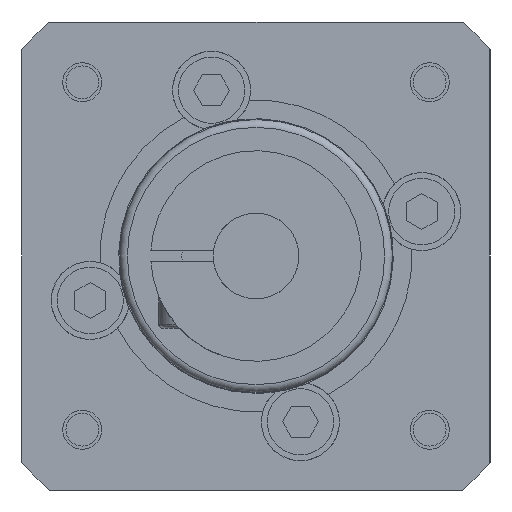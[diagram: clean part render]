
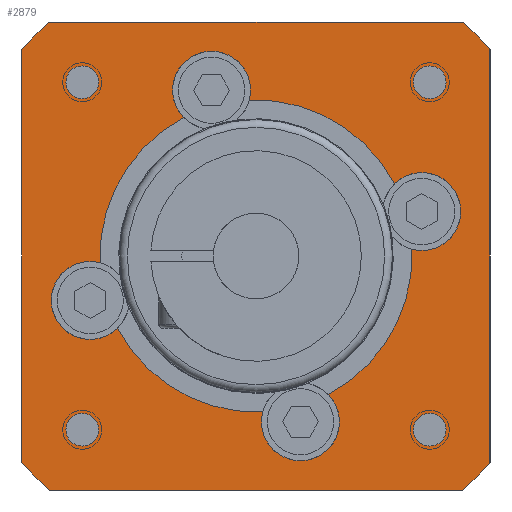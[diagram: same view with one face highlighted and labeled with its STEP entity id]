
A CAD part, left-side view. The second image highlights one B-rep face of the part: STEP entity #2879.
In plain terms, the highlighted planar face has unit normal (-1, 0, 0).
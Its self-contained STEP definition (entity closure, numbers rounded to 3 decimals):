
#121=LINE('',#4312,#362);
#122=LINE('',#4316,#363);
#123=LINE('',#4320,#364);
#124=LINE('',#4323,#365);
#362=VECTOR('',#3426,52.915);
#363=VECTOR('',#3429,52.915);
#364=VECTOR('',#3432,52.915);
#365=VECTOR('',#3435,52.915);
#606=PLANE('',#3085);
#737=FACE_BOUND('',#1012,.T.);
#738=FACE_BOUND('',#1013,.T.);
#739=FACE_BOUND('',#1014,.T.);
#740=FACE_BOUND('',#1015,.T.);
#741=FACE_BOUND('',#1016,.T.);
#816=FACE_OUTER_BOUND('',#1011,.T.);
#1011=EDGE_LOOP('',(#2073,#2074,#2075,#2076,#2077,#2078,#2079,#2080));
#1012=EDGE_LOOP('',(#2081));
#1013=EDGE_LOOP('',(#2082));
#1014=EDGE_LOOP('',(#2083));
#1015=EDGE_LOOP('',(#2084));
#1016=EDGE_LOOP('',(#2085,#2086,#2087,#2088,#2089,#2090,#2091,#2092));
#1274=CIRCLE('',#3083,2.1);
#1276=CIRCLE('',#3086,40.);
#1277=CIRCLE('',#3087,40.);
#1278=CIRCLE('',#3088,40.);
#1279=CIRCLE('',#3089,40.);
#1280=CIRCLE('',#3090,2.1);
#1281=CIRCLE('',#3091,2.1);
#1282=CIRCLE('',#3092,2.1);
#1283=CIRCLE('',#3093,5.);
#1284=CIRCLE('',#3094,20.);
#1285=CIRCLE('',#3095,5.);
#1286=CIRCLE('',#3096,20.);
#1287=CIRCLE('',#3097,5.);
#1288=CIRCLE('',#3098,20.);
#1289=CIRCLE('',#3099,5.);
#1290=CIRCLE('',#3100,20.);
#1408=VERTEX_POINT('',#4303);
#1410=VERTEX_POINT('',#4308);
#1411=VERTEX_POINT('',#4309);
#1412=VERTEX_POINT('',#4311);
#1413=VERTEX_POINT('',#4313);
#1414=VERTEX_POINT('',#4315);
#1415=VERTEX_POINT('',#4317);
#1416=VERTEX_POINT('',#4319);
#1417=VERTEX_POINT('',#4321);
#1418=VERTEX_POINT('',#4324);
#1419=VERTEX_POINT('',#4326);
#1420=VERTEX_POINT('',#4328);
#1421=VERTEX_POINT('',#4330);
#1422=VERTEX_POINT('',#4331);
#1423=VERTEX_POINT('',#4333);
#1424=VERTEX_POINT('',#4335);
#1425=VERTEX_POINT('',#4337);
#1426=VERTEX_POINT('',#4339);
#1427=VERTEX_POINT('',#4341);
#1428=VERTEX_POINT('',#4343);
#1683=EDGE_CURVE('',#1408,#1408,#1274,.T.);
#1685=EDGE_CURVE('',#1410,#1411,#1276,.T.);
#1686=EDGE_CURVE('',#1411,#1412,#121,.T.);
#1687=EDGE_CURVE('',#1412,#1413,#1277,.T.);
#1688=EDGE_CURVE('',#1413,#1414,#122,.T.);
#1689=EDGE_CURVE('',#1414,#1415,#1278,.T.);
#1690=EDGE_CURVE('',#1415,#1416,#123,.T.);
#1691=EDGE_CURVE('',#1416,#1417,#1279,.T.);
#1692=EDGE_CURVE('',#1417,#1410,#124,.T.);
#1693=EDGE_CURVE('',#1418,#1418,#1280,.T.);
#1694=EDGE_CURVE('',#1419,#1419,#1281,.T.);
#1695=EDGE_CURVE('',#1420,#1420,#1282,.T.);
#1696=EDGE_CURVE('',#1421,#1422,#1283,.T.);
#1697=EDGE_CURVE('',#1422,#1423,#1284,.T.);
#1698=EDGE_CURVE('',#1423,#1424,#1285,.T.);
#1699=EDGE_CURVE('',#1424,#1425,#1286,.T.);
#1700=EDGE_CURVE('',#1425,#1426,#1287,.T.);
#1701=EDGE_CURVE('',#1426,#1427,#1288,.T.);
#1702=EDGE_CURVE('',#1427,#1428,#1289,.T.);
#1703=EDGE_CURVE('',#1428,#1421,#1290,.T.);
#2073=ORIENTED_EDGE('',*,*,#1685,.T.);
#2074=ORIENTED_EDGE('',*,*,#1686,.T.);
#2075=ORIENTED_EDGE('',*,*,#1687,.T.);
#2076=ORIENTED_EDGE('',*,*,#1688,.T.);
#2077=ORIENTED_EDGE('',*,*,#1689,.T.);
#2078=ORIENTED_EDGE('',*,*,#1690,.T.);
#2079=ORIENTED_EDGE('',*,*,#1691,.T.);
#2080=ORIENTED_EDGE('',*,*,#1692,.T.);
#2081=ORIENTED_EDGE('',*,*,#1683,.F.);
#2082=ORIENTED_EDGE('',*,*,#1693,.F.);
#2083=ORIENTED_EDGE('',*,*,#1694,.F.);
#2084=ORIENTED_EDGE('',*,*,#1695,.F.);
#2085=ORIENTED_EDGE('',*,*,#1696,.T.);
#2086=ORIENTED_EDGE('',*,*,#1697,.T.);
#2087=ORIENTED_EDGE('',*,*,#1698,.T.);
#2088=ORIENTED_EDGE('',*,*,#1699,.T.);
#2089=ORIENTED_EDGE('',*,*,#1700,.T.);
#2090=ORIENTED_EDGE('',*,*,#1701,.T.);
#2091=ORIENTED_EDGE('',*,*,#1702,.T.);
#2092=ORIENTED_EDGE('',*,*,#1703,.T.);
#2879=ADVANCED_FACE('',(#816,#737,#738,#739,#740,#741),#606,.T.);
#3083=AXIS2_PLACEMENT_3D('',#4304,#3418,#3419);
#3085=AXIS2_PLACEMENT_3D('',#4307,#3422,#3423);
#3086=AXIS2_PLACEMENT_3D('',#4310,#3424,#3425);
#3087=AXIS2_PLACEMENT_3D('',#4314,#3427,#3428);
#3088=AXIS2_PLACEMENT_3D('',#4318,#3430,#3431);
#3089=AXIS2_PLACEMENT_3D('',#4322,#3433,#3434);
#3090=AXIS2_PLACEMENT_3D('',#4325,#3436,#3437);
#3091=AXIS2_PLACEMENT_3D('',#4327,#3438,#3439);
#3092=AXIS2_PLACEMENT_3D('',#4329,#3440,#3441);
#3093=AXIS2_PLACEMENT_3D('',#4332,#3442,#3443);
#3094=AXIS2_PLACEMENT_3D('',#4334,#3444,#3445);
#3095=AXIS2_PLACEMENT_3D('',#4336,#3446,#3447);
#3096=AXIS2_PLACEMENT_3D('',#4338,#3448,#3449);
#3097=AXIS2_PLACEMENT_3D('',#4340,#3450,#3451);
#3098=AXIS2_PLACEMENT_3D('',#4342,#3452,#3453);
#3099=AXIS2_PLACEMENT_3D('',#4344,#3454,#3455);
#3100=AXIS2_PLACEMENT_3D('',#4345,#3456,#3457);
#3418=DIRECTION('center_axis',(-1.,0.,0.));
#3419=DIRECTION('ref_axis',(0.,0.,-1.));
#3422=DIRECTION('center_axis',(-1.,0.,0.));
#3423=DIRECTION('ref_axis',(0.,0.,-1.));
#3424=DIRECTION('center_axis',(-1.,0.,0.));
#3425=DIRECTION('ref_axis',(0.,-0.75,0.661));
#3426=DIRECTION('',(0.,1.,0.));
#3427=DIRECTION('center_axis',(-1.,0.,0.));
#3428=DIRECTION('ref_axis',(0.,0.661,0.75));
#3429=DIRECTION('',(0.,0.,-1.));
#3430=DIRECTION('center_axis',(-1.,0.,0.));
#3431=DIRECTION('ref_axis',(0.,0.75,-0.661));
#3432=DIRECTION('',(0.,-1.,0.));
#3433=DIRECTION('center_axis',(-1.,0.,0.));
#3434=DIRECTION('ref_axis',(0.,-0.661,-0.75));
#3435=DIRECTION('',(0.,0.,1.));
#3436=DIRECTION('center_axis',(-1.,0.,0.));
#3437=DIRECTION('ref_axis',(0.,0.,-1.));
#3438=DIRECTION('center_axis',(-1.,0.,0.));
#3439=DIRECTION('ref_axis',(0.,0.,-1.));
#3440=DIRECTION('center_axis',(-1.,0.,0.));
#3441=DIRECTION('ref_axis',(0.,0.,-1.));
#3442=DIRECTION('center_axis',(1.,0.,0.));
#3443=DIRECTION('ref_axis',(0.,0.703,0.711));
#3444=DIRECTION('center_axis',(1.,0.,0.));
#3445=DIRECTION('ref_axis',(0.,-0.999,0.043));
#3446=DIRECTION('center_axis',(1.,0.,0.));
#3447=DIRECTION('ref_axis',(0.,-0.711,0.703));
#3448=DIRECTION('center_axis',(1.,0.,0.));
#3449=DIRECTION('ref_axis',(0.,-0.043,-0.999));
#3450=DIRECTION('center_axis',(1.,0.,0.));
#3451=DIRECTION('ref_axis',(0.,-0.703,-0.711));
#3452=DIRECTION('center_axis',(1.,0.,0.));
#3453=DIRECTION('ref_axis',(0.,0.999,-0.043));
#3454=DIRECTION('center_axis',(1.,0.,0.));
#3455=DIRECTION('ref_axis',(0.,0.711,-0.703));
#3456=DIRECTION('center_axis',(1.,0.,0.));
#3457=DIRECTION('ref_axis',(0.,0.043,0.999));
#4303=CARTESIAN_POINT('',(0.,-22.274,20.174));
#4304=CARTESIAN_POINT('Origin',(0.,-22.274,22.274));
#4307=CARTESIAN_POINT('Origin',(0.,0.,0.));
#4308=CARTESIAN_POINT('',(0.,-30.,26.458));
#4309=CARTESIAN_POINT('',(0.,-26.458,30.));
#4310=CARTESIAN_POINT('Origin',(0.,0.,0.));
#4311=CARTESIAN_POINT('',(0.,26.458,30.));
#4312=CARTESIAN_POINT('',(0.,-26.458,30.));
#4313=CARTESIAN_POINT('',(0.,30.,26.458));
#4314=CARTESIAN_POINT('Origin',(0.,0.,0.));
#4315=CARTESIAN_POINT('',(0.,30.,-26.458));
#4316=CARTESIAN_POINT('',(0.,30.,26.458));
#4317=CARTESIAN_POINT('',(0.,26.458,-30.));
#4318=CARTESIAN_POINT('Origin',(0.,0.,0.));
#4319=CARTESIAN_POINT('',(0.,-26.458,-30.));
#4320=CARTESIAN_POINT('',(0.,26.458,-30.));
#4321=CARTESIAN_POINT('',(0.,-30.,-26.458));
#4322=CARTESIAN_POINT('Origin',(0.,0.,0.));
#4323=CARTESIAN_POINT('',(0.,-30.,-26.458));
#4324=CARTESIAN_POINT('',(0.,-22.274,-24.374));
#4325=CARTESIAN_POINT('Origin',(0.,-22.274,-22.274));
#4326=CARTESIAN_POINT('',(0.,22.274,-24.374));
#4327=CARTESIAN_POINT('Origin',(0.,22.274,-22.274));
#4328=CARTESIAN_POINT('',(0.,22.274,20.174));
#4329=CARTESIAN_POINT('Origin',(0.,22.274,22.274));
#4330=CARTESIAN_POINT('',(0.,-17.733,9.248));
#4331=CARTESIAN_POINT('',(0.,-19.982,0.858));
#4332=CARTESIAN_POINT('Origin',(0.,-21.25,5.694));
#4333=CARTESIAN_POINT('',(0.,-9.248,-17.733));
#4334=CARTESIAN_POINT('Origin',(0.,0.,0.));
#4335=CARTESIAN_POINT('',(0.,-0.858,-19.982));
#4336=CARTESIAN_POINT('Origin',(0.,-5.694,-21.25));
#4337=CARTESIAN_POINT('',(0.,17.733,-9.248));
#4338=CARTESIAN_POINT('Origin',(0.,0.,0.));
#4339=CARTESIAN_POINT('',(0.,19.982,-0.858));
#4340=CARTESIAN_POINT('Origin',(0.,21.25,-5.694));
#4341=CARTESIAN_POINT('',(0.,9.248,17.733));
#4342=CARTESIAN_POINT('Origin',(0.,0.,0.));
#4343=CARTESIAN_POINT('',(0.,0.858,19.982));
#4344=CARTESIAN_POINT('Origin',(0.,5.694,21.25));
#4345=CARTESIAN_POINT('Origin',(0.,0.,0.));
